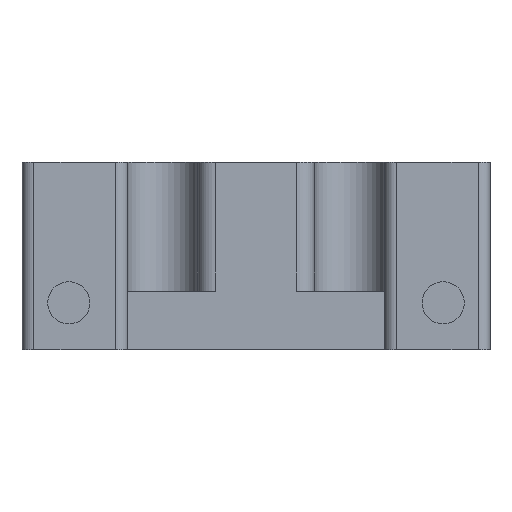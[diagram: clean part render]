
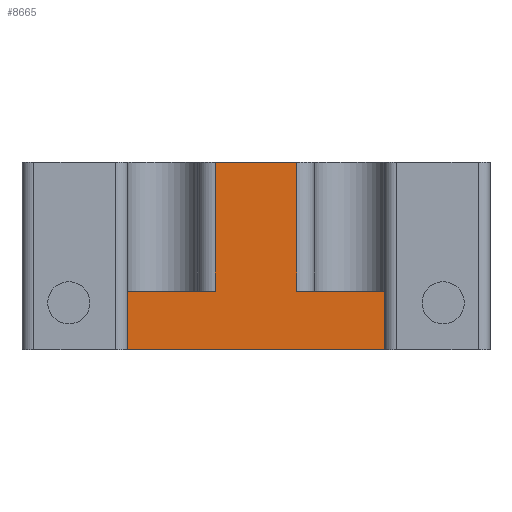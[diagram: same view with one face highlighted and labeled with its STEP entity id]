
A CAD part, front view. The second image highlights one B-rep face of the part: STEP entity #8665.
In plain terms, the highlighted planar face has unit normal (0, -1, 0).
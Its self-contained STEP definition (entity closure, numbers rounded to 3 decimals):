
#32 = PLANE('',#33);
#33 = AXIS2_PLACEMENT_3D('',#34,#35,#36);
#34 = CARTESIAN_POINT('',(30.,-12.5,8.));
#35 = DIRECTION('',(-0.,-0.,1.));
#36 = DIRECTION('',(1.,0.,0.));
#57 = VERTEX_POINT('',#58);
#58 = CARTESIAN_POINT('',(13.5,-9.5,8.));
#77 = CYLINDRICAL_SURFACE('',#78,1.5);
#78 = AXIS2_PLACEMENT_3D('',#79,#80,#81);
#79 = CARTESIAN_POINT('',(13.5,-8.,8.));
#80 = DIRECTION('',(-0.,-0.,-1.));
#81 = DIRECTION('',(1.,0.,0.));
#89 = EDGE_CURVE('',#90,#57,#92,.T.);
#90 = VERTEX_POINT('',#91);
#91 = CARTESIAN_POINT('',(6.5,-9.5,8.));
#92 = SURFACE_CURVE('',#93,(#97,#104),.PCURVE_S1.);
#93 = LINE('',#94,#95);
#94 = CARTESIAN_POINT('',(5.,-9.5,8.));
#95 = VECTOR('',#96,1.);
#96 = DIRECTION('',(1.,0.,0.));
#97 = PCURVE('',#32,#98);
#98 = DEFINITIONAL_REPRESENTATION('',(#99),#103);
#99 = LINE('',#100,#101);
#100 = CARTESIAN_POINT('',(-25.,3.));
#101 = VECTOR('',#102,1.);
#102 = DIRECTION('',(1.,-0.));
#103 = ( GEOMETRIC_REPRESENTATION_CONTEXT(2) 
PARAMETRIC_REPRESENTATION_CONTEXT() REPRESENTATION_CONTEXT('2D SPACE',''
  ) );
#104 = PCURVE('',#105,#110);
#105 = PLANE('',#106);
#106 = AXIS2_PLACEMENT_3D('',#107,#108,#109);
#107 = CARTESIAN_POINT('',(21.,-9.5,8.));
#108 = DIRECTION('',(-0.,-1.,-0.));
#109 = DIRECTION('',(1.,0.,0.));
#110 = DEFINITIONAL_REPRESENTATION('',(#111),#115);
#111 = LINE('',#112,#113);
#112 = CARTESIAN_POINT('',(-16.,0.));
#113 = VECTOR('',#114,1.);
#114 = DIRECTION('',(1.,-0.));
#115 = ( GEOMETRIC_REPRESENTATION_CONTEXT(2) 
PARAMETRIC_REPRESENTATION_CONTEXT() REPRESENTATION_CONTEXT('2D SPACE',''
  ) );
#138 = CYLINDRICAL_SURFACE('',#139,1.5);
#139 = AXIS2_PLACEMENT_3D('',#140,#141,#142);
#140 = CARTESIAN_POINT('',(6.5,-8.,8.));
#141 = DIRECTION('',(0.,0.,-1.));
#142 = DIRECTION('',(0.,-1.,0.));
#223 = PLANE('',#224);
#224 = AXIS2_PLACEMENT_3D('',#225,#226,#227);
#225 = CARTESIAN_POINT('',(-1.,-12.5,8.));
#226 = DIRECTION('',(1.,0.,0.));
#227 = DIRECTION('',(-0.,1.,0.));
#515 = PLANE('',#516);
#516 = AXIS2_PLACEMENT_3D('',#517,#518,#519);
#517 = CARTESIAN_POINT('',(21.,-12.5,8.));
#518 = DIRECTION('',(-1.,-0.,-0.));
#519 = DIRECTION('',(0.,-1.,0.));
#1670 = PLANE('',#1671);
#1671 = AXIS2_PLACEMENT_3D('',#1672,#1673,#1674);
#1672 = CARTESIAN_POINT('',(30.,-12.5,-8.));
#1673 = DIRECTION('',(-0.,-0.,1.));
#1674 = DIRECTION('',(1.,0.,0.));
#1731 = VERTEX_POINT('',#1732);
#1732 = CARTESIAN_POINT('',(-1.,-9.5,-8.));
#1953 = VERTEX_POINT('',#1954);
#1954 = CARTESIAN_POINT('',(21.,-9.5,-8.));
#1975 = EDGE_CURVE('',#1953,#1731,#1976,.T.);
#1976 = SURFACE_CURVE('',#1977,(#1981,#1988),.PCURVE_S1.);
#1977 = LINE('',#1978,#1979);
#1978 = CARTESIAN_POINT('',(21.,-9.5,-8.));
#1979 = VECTOR('',#1980,1.);
#1980 = DIRECTION('',(-1.,0.,0.));
#1981 = PCURVE('',#1670,#1982);
#1982 = DEFINITIONAL_REPRESENTATION('',(#1983),#1987);
#1983 = LINE('',#1984,#1985);
#1984 = CARTESIAN_POINT('',(-9.,3.));
#1985 = VECTOR('',#1986,1.);
#1986 = DIRECTION('',(-1.,0.));
#1987 = ( GEOMETRIC_REPRESENTATION_CONTEXT(2) 
PARAMETRIC_REPRESENTATION_CONTEXT() REPRESENTATION_CONTEXT('2D SPACE',''
  ) );
#1988 = PCURVE('',#105,#1989);
#1989 = DEFINITIONAL_REPRESENTATION('',(#1990),#1994);
#1990 = LINE('',#1991,#1992);
#1991 = CARTESIAN_POINT('',(-0.,-16.));
#1992 = VECTOR('',#1993,1.);
#1993 = DIRECTION('',(-1.,0.));
#1994 = ( GEOMETRIC_REPRESENTATION_CONTEXT(2) 
PARAMETRIC_REPRESENTATION_CONTEXT() REPRESENTATION_CONTEXT('2D SPACE',''
  ) );
#2104 = PLANE('',#2105);
#2105 = AXIS2_PLACEMENT_3D('',#2106,#2107,#2108);
#2106 = CARTESIAN_POINT('',(2.,-5.5,-3.));
#2107 = DIRECTION('',(0.,0.,1.));
#2108 = DIRECTION('',(1.,0.,0.));
#2174 = VERTEX_POINT('',#2175);
#2175 = CARTESIAN_POINT('',(-1.,-9.5,-3.));
#2196 = EDGE_CURVE('',#2197,#2174,#2199,.T.);
#2197 = VERTEX_POINT('',#2198);
#2198 = CARTESIAN_POINT('',(6.5,-9.5,-3.));
#2199 = SURFACE_CURVE('',#2200,(#2204,#2211),.PCURVE_S1.);
#2200 = LINE('',#2201,#2202);
#2201 = CARTESIAN_POINT('',(6.5,-9.5,-3.));
#2202 = VECTOR('',#2203,1.);
#2203 = DIRECTION('',(-1.,0.,0.));
#2204 = PCURVE('',#2104,#2205);
#2205 = DEFINITIONAL_REPRESENTATION('',(#2206),#2210);
#2206 = LINE('',#2207,#2208);
#2207 = CARTESIAN_POINT('',(4.5,-4.));
#2208 = VECTOR('',#2209,1.);
#2209 = DIRECTION('',(-1.,0.));
#2210 = ( GEOMETRIC_REPRESENTATION_CONTEXT(2) 
PARAMETRIC_REPRESENTATION_CONTEXT() REPRESENTATION_CONTEXT('2D SPACE',''
  ) );
#2211 = PCURVE('',#105,#2212);
#2212 = DEFINITIONAL_REPRESENTATION('',(#2213),#2217);
#2213 = LINE('',#2214,#2215);
#2214 = CARTESIAN_POINT('',(-14.5,-11.));
#2215 = VECTOR('',#2216,1.);
#2216 = DIRECTION('',(-1.,0.));
#2217 = ( GEOMETRIC_REPRESENTATION_CONTEXT(2) 
PARAMETRIC_REPRESENTATION_CONTEXT() REPRESENTATION_CONTEXT('2D SPACE',''
  ) );
#2290 = PLANE('',#2291);
#2291 = AXIS2_PLACEMENT_3D('',#2292,#2293,#2294);
#2292 = CARTESIAN_POINT('',(18.,-5.5,-3.));
#2293 = DIRECTION('',(0.,0.,1.));
#2294 = DIRECTION('',(1.,0.,0.));
#2360 = VERTEX_POINT('',#2361);
#2361 = CARTESIAN_POINT('',(21.,-9.5,-3.));
#2382 = EDGE_CURVE('',#2360,#2383,#2385,.T.);
#2383 = VERTEX_POINT('',#2384);
#2384 = CARTESIAN_POINT('',(13.5,-9.5,-3.));
#2385 = SURFACE_CURVE('',#2386,(#2390,#2397),.PCURVE_S1.);
#2386 = LINE('',#2387,#2388);
#2387 = CARTESIAN_POINT('',(21.,-9.5,-3.));
#2388 = VECTOR('',#2389,1.);
#2389 = DIRECTION('',(-1.,0.,0.));
#2390 = PCURVE('',#2290,#2391);
#2391 = DEFINITIONAL_REPRESENTATION('',(#2392),#2396);
#2392 = LINE('',#2393,#2394);
#2393 = CARTESIAN_POINT('',(3.,-4.));
#2394 = VECTOR('',#2395,1.);
#2395 = DIRECTION('',(-1.,0.));
#2396 = ( GEOMETRIC_REPRESENTATION_CONTEXT(2) 
PARAMETRIC_REPRESENTATION_CONTEXT() REPRESENTATION_CONTEXT('2D SPACE',''
  ) );
#2397 = PCURVE('',#105,#2398);
#2398 = DEFINITIONAL_REPRESENTATION('',(#2399),#2403);
#2399 = LINE('',#2400,#2401);
#2400 = CARTESIAN_POINT('',(-0.,-11.));
#2401 = VECTOR('',#2402,1.);
#2402 = DIRECTION('',(-1.,0.));
#2403 = ( GEOMETRIC_REPRESENTATION_CONTEXT(2) 
PARAMETRIC_REPRESENTATION_CONTEXT() REPRESENTATION_CONTEXT('2D SPACE',''
  ) );
#8409 = EDGE_CURVE('',#2174,#1731,#8410,.T.);
#8410 = SURFACE_CURVE('',#8411,(#8415,#8422),.PCURVE_S1.);
#8411 = LINE('',#8412,#8413);
#8412 = CARTESIAN_POINT('',(-1.,-9.5,8.));
#8413 = VECTOR('',#8414,1.);
#8414 = DIRECTION('',(-0.,-0.,-1.));
#8415 = PCURVE('',#223,#8416);
#8416 = DEFINITIONAL_REPRESENTATION('',(#8417),#8421);
#8417 = LINE('',#8418,#8419);
#8418 = CARTESIAN_POINT('',(3.,0.));
#8419 = VECTOR('',#8420,1.);
#8420 = DIRECTION('',(0.,-1.));
#8421 = ( GEOMETRIC_REPRESENTATION_CONTEXT(2) 
PARAMETRIC_REPRESENTATION_CONTEXT() REPRESENTATION_CONTEXT('2D SPACE',''
  ) );
#8422 = PCURVE('',#105,#8423);
#8423 = DEFINITIONAL_REPRESENTATION('',(#8424),#8428);
#8424 = LINE('',#8425,#8426);
#8425 = CARTESIAN_POINT('',(-22.,0.));
#8426 = VECTOR('',#8427,1.);
#8427 = DIRECTION('',(-0.,-1.));
#8428 = ( GEOMETRIC_REPRESENTATION_CONTEXT(2) 
PARAMETRIC_REPRESENTATION_CONTEXT() REPRESENTATION_CONTEXT('2D SPACE',''
  ) );
#8596 = EDGE_CURVE('',#90,#2197,#8597,.T.);
#8597 = SURFACE_CURVE('',#8598,(#8602,#8609),.PCURVE_S1.);
#8598 = LINE('',#8599,#8600);
#8599 = CARTESIAN_POINT('',(6.5,-9.5,8.));
#8600 = VECTOR('',#8601,1.);
#8601 = DIRECTION('',(0.,0.,-1.));
#8602 = PCURVE('',#138,#8603);
#8603 = DEFINITIONAL_REPRESENTATION('',(#8604),#8608);
#8604 = LINE('',#8605,#8606);
#8605 = CARTESIAN_POINT('',(0.,0.));
#8606 = VECTOR('',#8607,1.);
#8607 = DIRECTION('',(0.,1.));
#8608 = ( GEOMETRIC_REPRESENTATION_CONTEXT(2) 
PARAMETRIC_REPRESENTATION_CONTEXT() REPRESENTATION_CONTEXT('2D SPACE',''
  ) );
#8609 = PCURVE('',#105,#8610);
#8610 = DEFINITIONAL_REPRESENTATION('',(#8611),#8615);
#8611 = LINE('',#8612,#8613);
#8612 = CARTESIAN_POINT('',(-14.5,0.));
#8613 = VECTOR('',#8614,1.);
#8614 = DIRECTION('',(-0.,-1.));
#8615 = ( GEOMETRIC_REPRESENTATION_CONTEXT(2) 
PARAMETRIC_REPRESENTATION_CONTEXT() REPRESENTATION_CONTEXT('2D SPACE',''
  ) );
#8623 = EDGE_CURVE('',#2360,#1953,#8624,.T.);
#8624 = SURFACE_CURVE('',#8625,(#8629,#8636),.PCURVE_S1.);
#8625 = LINE('',#8626,#8627);
#8626 = CARTESIAN_POINT('',(21.,-9.5,8.));
#8627 = VECTOR('',#8628,1.);
#8628 = DIRECTION('',(0.,-0.,-1.));
#8629 = PCURVE('',#515,#8630);
#8630 = DEFINITIONAL_REPRESENTATION('',(#8631),#8635);
#8631 = LINE('',#8632,#8633);
#8632 = CARTESIAN_POINT('',(-3.,0.));
#8633 = VECTOR('',#8634,1.);
#8634 = DIRECTION('',(-0.,-1.));
#8635 = ( GEOMETRIC_REPRESENTATION_CONTEXT(2) 
PARAMETRIC_REPRESENTATION_CONTEXT() REPRESENTATION_CONTEXT('2D SPACE',''
  ) );
#8636 = PCURVE('',#105,#8637);
#8637 = DEFINITIONAL_REPRESENTATION('',(#8638),#8642);
#8638 = LINE('',#8639,#8640);
#8639 = CARTESIAN_POINT('',(0.,-0.));
#8640 = VECTOR('',#8641,1.);
#8641 = DIRECTION('',(-0.,-1.));
#8642 = ( GEOMETRIC_REPRESENTATION_CONTEXT(2) 
PARAMETRIC_REPRESENTATION_CONTEXT() REPRESENTATION_CONTEXT('2D SPACE',''
  ) );
#8665 = ADVANCED_FACE('',(#8666),#105,.T.);
#8666 = FACE_BOUND('',#8667,.F.);
#8667 = EDGE_LOOP('',(#8668,#8669,#8690,#8691,#8692,#8693,#8694,#8695));
#8668 = ORIENTED_EDGE('',*,*,#89,.T.);
#8669 = ORIENTED_EDGE('',*,*,#8670,.T.);
#8670 = EDGE_CURVE('',#57,#2383,#8671,.T.);
#8671 = SURFACE_CURVE('',#8672,(#8676,#8683),.PCURVE_S1.);
#8672 = LINE('',#8673,#8674);
#8673 = CARTESIAN_POINT('',(13.5,-9.5,8.));
#8674 = VECTOR('',#8675,1.);
#8675 = DIRECTION('',(-0.,-0.,-1.));
#8676 = PCURVE('',#105,#8677);
#8677 = DEFINITIONAL_REPRESENTATION('',(#8678),#8682);
#8678 = LINE('',#8679,#8680);
#8679 = CARTESIAN_POINT('',(-7.5,0.));
#8680 = VECTOR('',#8681,1.);
#8681 = DIRECTION('',(-0.,-1.));
#8682 = ( GEOMETRIC_REPRESENTATION_CONTEXT(2) 
PARAMETRIC_REPRESENTATION_CONTEXT() REPRESENTATION_CONTEXT('2D SPACE',''
  ) );
#8683 = PCURVE('',#77,#8684);
#8684 = DEFINITIONAL_REPRESENTATION('',(#8685),#8689);
#8685 = LINE('',#8686,#8687);
#8686 = CARTESIAN_POINT('',(1.571,0.));
#8687 = VECTOR('',#8688,1.);
#8688 = DIRECTION('',(0.,1.));
#8689 = ( GEOMETRIC_REPRESENTATION_CONTEXT(2) 
PARAMETRIC_REPRESENTATION_CONTEXT() REPRESENTATION_CONTEXT('2D SPACE',''
  ) );
#8690 = ORIENTED_EDGE('',*,*,#2382,.F.);
#8691 = ORIENTED_EDGE('',*,*,#8623,.T.);
#8692 = ORIENTED_EDGE('',*,*,#1975,.T.);
#8693 = ORIENTED_EDGE('',*,*,#8409,.F.);
#8694 = ORIENTED_EDGE('',*,*,#2196,.F.);
#8695 = ORIENTED_EDGE('',*,*,#8596,.F.);
